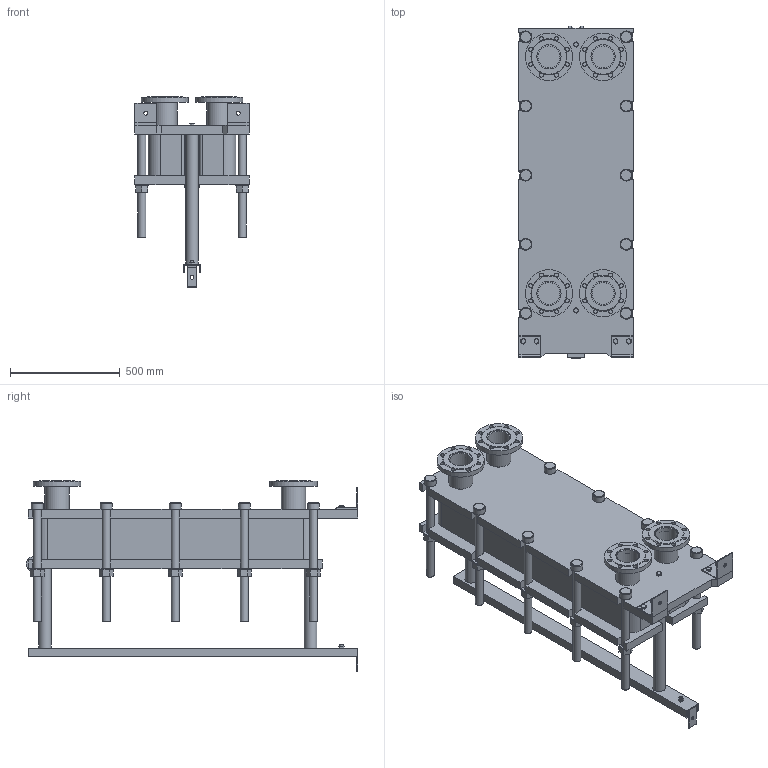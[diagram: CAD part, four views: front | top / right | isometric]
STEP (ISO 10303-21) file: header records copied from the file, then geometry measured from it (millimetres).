
FILE_DESCRIPTION(/* description */ (''),/* implementation_level */ '2;1');
FILE_NAME(/* name */ 'C:\Users\zhuro\Desktop\ENCO\TO\ЭН-04\ЭН-0,5-04-55-1.stp',/* time_stamp */ '2022-06-06T10:49:03+03:00',/* author */ ('zhuro'),/* organization */ (''),/* preprocessor_version */ 'ST-DEVELOPER v18.1',/* originating_system */ 'Autodesk Inventor 2022',/* authorisation */ '');
FILE_SCHEMA (('AUTOMOTIVE_DESIGN { 1 0 10303 214 3 1 1 }'));
Length unit declared in the file: millimetre
Products named in the file (1): ЭН-0,5-04-55-1
Bounding box: 520 x 1510 x 867.5 mm (x, y, z)
Volume: 163612141 mm3; surface area: 7365707.7 mm2
Topology: 45 solids, 45 shells, 668 faces, 1611 edges, 1048 vertices
Faces by surface type: plane 457, cylinder 166, cone 39, torus 6
Full cylindrical faces by diameter (mm): 8 x4, 10 x2, 16 x8, 18 x35, 36 x25, 40 x2, 42 x1, 45 x4, 54 x10, 57 x2, 60 x10, 68 x2, 100 x4, 110 x8, 215 x4
Entity records: 23607 total; most frequent: CARTESIAN_POINT 7348, DIRECTION 3371, ORIENTED_EDGE 3142, EDGE_CURVE 1571, AXIS2_PLACEMENT_3D 1199, VERTEX_POINT 1044, LINE 973, VECTOR 973
